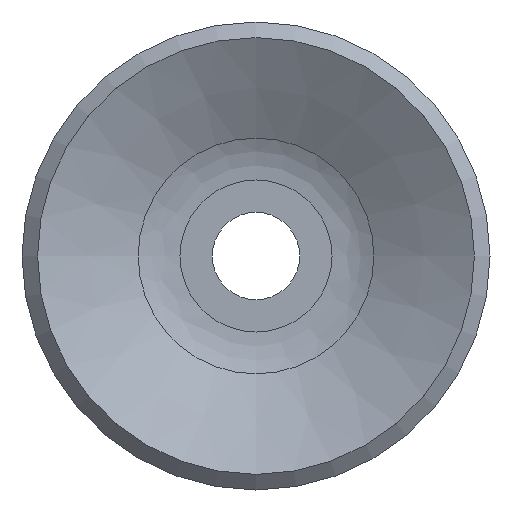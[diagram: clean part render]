
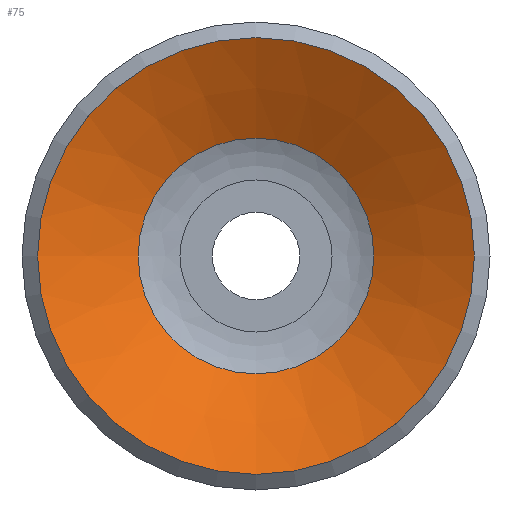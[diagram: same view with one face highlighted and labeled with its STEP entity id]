
A CAD part, front view. The second image highlights one B-rep face of the part: STEP entity #75.
In plain terms, the highlighted conical face has half-angle 61.39 degrees and reference radius 2.25 mm.
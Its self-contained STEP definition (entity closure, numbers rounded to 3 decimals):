
#75=ADVANCED_FACE('',(#95,#96),#97,.F.);
#95=FACE_BOUND('',#152,.T.);
#96=FACE_OUTER_BOUND('',#153,.T.);
#97=CONICAL_SURFACE('',#154,2.25,1.071);
#152=EDGE_LOOP('',(#243));
#153=EDGE_LOOP('',(#244));
#154=AXIS2_PLACEMENT_3D('',#245,#246,#247);
#243=ORIENTED_EDGE('',*,*,#335,.T.);
#244=ORIENTED_EDGE('',*,*,#336,.T.);
#245=CARTESIAN_POINT('',(0.0,1.5,0.0));
#246=DIRECTION('',(-0.0,-1.0,0.));
#247=DIRECTION('',(0.0,0.,-1.0));
#335=EDGE_CURVE('',#354,#354,#355,.F.);
#336=EDGE_CURVE('',#356,#356,#357,.T.);
#354=VERTEX_POINT('',#392);
#355=CIRCLE('',#393,2.698);
#356=VERTEX_POINT('',#394);
#357=CIRCLE('',#395,5.);
#392=CARTESIAN_POINT('',(0.0,1.256,-2.698));
#393=AXIS2_PLACEMENT_3D('',#430,#431,#432);
#394=CARTESIAN_POINT('',(5.,0.0,0.0));
#395=AXIS2_PLACEMENT_3D('',#433,#434,#435);
#430=CARTESIAN_POINT('',(0.0,1.256,0.));
#431=DIRECTION('',(0.0,-1.0,0.));
#432=DIRECTION('',(0.0,0.,-1.0));
#433=CARTESIAN_POINT('',(0.0,0.0,0.0));
#434=DIRECTION('',(0.0,-1.0,0.));
#435=DIRECTION('',(0.0,0.,-1.0));
